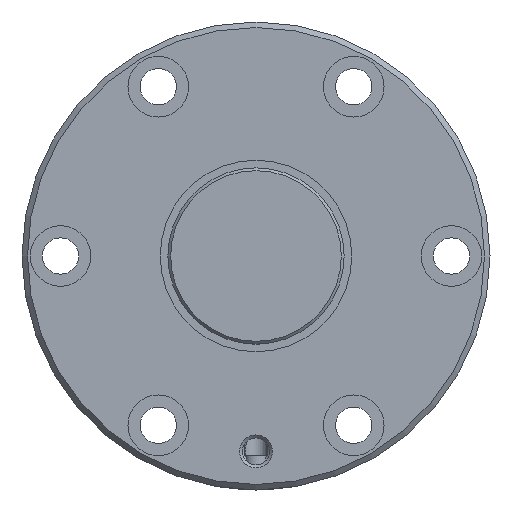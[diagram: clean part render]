
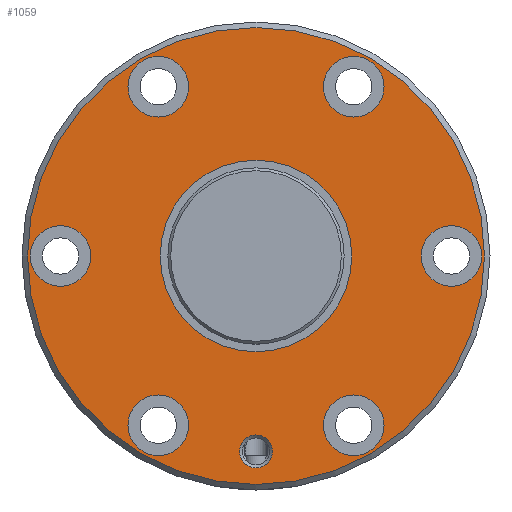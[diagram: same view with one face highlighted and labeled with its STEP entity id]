
A CAD part, left-side view. The second image highlights one B-rep face of the part: STEP entity #1059.
In plain terms, the highlighted planar face has unit normal (-1, 0, 0).
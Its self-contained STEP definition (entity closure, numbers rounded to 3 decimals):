
#121=PLANE('',#1177);
#184=ORIENTED_EDGE('',*,*,#432,.T.);
#185=ORIENTED_EDGE('',*,*,#433,.T.);
#186=ORIENTED_EDGE('',*,*,#434,.T.);
#187=ORIENTED_EDGE('',*,*,#435,.T.);
#188=ORIENTED_EDGE('',*,*,#436,.T.);
#189=ORIENTED_EDGE('',*,*,#437,.T.);
#190=ORIENTED_EDGE('',*,*,#438,.T.);
#191=ORIENTED_EDGE('',*,*,#439,.T.);
#192=ORIENTED_EDGE('',*,*,#431,.F.);
#431=EDGE_CURVE('',#560,#560,#655,.T.);
#432=EDGE_CURVE('',#561,#561,#656,.T.);
#433=EDGE_CURVE('',#562,#562,#657,.F.);
#434=EDGE_CURVE('',#563,#563,#658,.T.);
#435=EDGE_CURVE('',#564,#564,#659,.T.);
#436=EDGE_CURVE('',#565,#565,#660,.T.);
#437=EDGE_CURVE('',#566,#566,#661,.T.);
#438=EDGE_CURVE('',#567,#567,#662,.T.);
#439=EDGE_CURVE('',#568,#568,#663,.T.);
#560=VERTEX_POINT('',#1753);
#561=VERTEX_POINT('',#1756);
#562=VERTEX_POINT('',#1758);
#563=VERTEX_POINT('',#1760);
#564=VERTEX_POINT('',#1762);
#565=VERTEX_POINT('',#1764);
#566=VERTEX_POINT('',#1766);
#567=VERTEX_POINT('',#1768);
#568=VERTEX_POINT('',#1770);
#655=CIRCLE('',#1176,41.5);
#656=CIRCLE('',#1178,17.4);
#657=CIRCLE('',#1179,5.5);
#658=CIRCLE('',#1180,3.);
#659=CIRCLE('',#1181,5.5);
#660=CIRCLE('',#1182,5.5);
#661=CIRCLE('',#1183,5.5);
#662=CIRCLE('',#1184,5.5);
#663=CIRCLE('',#1185,5.5);
#746=EDGE_LOOP('',(#184));
#747=EDGE_LOOP('',(#185));
#748=EDGE_LOOP('',(#186));
#749=EDGE_LOOP('',(#187));
#750=EDGE_LOOP('',(#188));
#751=EDGE_LOOP('',(#189));
#752=EDGE_LOOP('',(#190));
#753=EDGE_LOOP('',(#191));
#754=EDGE_LOOP('',(#192));
#891=FACE_BOUND('',#746,.T.);
#892=FACE_BOUND('',#747,.T.);
#893=FACE_BOUND('',#748,.T.);
#894=FACE_BOUND('',#749,.T.);
#895=FACE_BOUND('',#750,.T.);
#896=FACE_BOUND('',#751,.T.);
#897=FACE_BOUND('',#752,.T.);
#898=FACE_BOUND('',#753,.T.);
#899=FACE_BOUND('',#754,.T.);
#1059=ADVANCED_FACE('',(#891,#892,#893,#894,#895,#896,#897,#898,#899),#121,
 .T.);
#1176=AXIS2_PLACEMENT_3D('',#1752,#1366,#1367);
#1177=AXIS2_PLACEMENT_3D('',#1754,#1368,#1369);
#1178=AXIS2_PLACEMENT_3D('',#1755,#1370,#1371);
#1179=AXIS2_PLACEMENT_3D('',#1757,#1372,#1373);
#1180=AXIS2_PLACEMENT_3D('',#1759,#1374,#1375);
#1181=AXIS2_PLACEMENT_3D('',#1761,#1376,#1377);
#1182=AXIS2_PLACEMENT_3D('',#1763,#1378,#1379);
#1183=AXIS2_PLACEMENT_3D('',#1765,#1380,#1381);
#1184=AXIS2_PLACEMENT_3D('',#1767,#1382,#1383);
#1185=AXIS2_PLACEMENT_3D('',#1769,#1384,#1385);
#1366=DIRECTION('',(1.,0.,0.));
#1367=DIRECTION('',(0.,0.,-1.));
#1368=DIRECTION('',(-1.,0.,0.));
#1369=DIRECTION('',(0.,0.,1.));
#1370=DIRECTION('',(1.,0.,0.));
#1371=DIRECTION('',(0.,0.,-1.));
#1372=DIRECTION('',(-1.,0.,0.));
#1373=DIRECTION('',(0.,0.,1.));
#1374=DIRECTION('',(1.,0.,0.));
#1375=DIRECTION('',(0.,0.,-1.));
#1376=DIRECTION('',(1.,0.,0.));
#1377=DIRECTION('',(0.,0.,-1.));
#1378=DIRECTION('',(1.,0.,0.));
#1379=DIRECTION('',(0.,0.,-1.));
#1380=DIRECTION('',(1.,0.,0.));
#1381=DIRECTION('',(0.,0.,-1.));
#1382=DIRECTION('',(1.,0.,0.));
#1383=DIRECTION('',(0.,0.,-1.));
#1384=DIRECTION('',(1.,0.,0.));
#1385=DIRECTION('',(0.,0.,-1.));
#1752=CARTESIAN_POINT('',(0.,0.,0.));
#1753=CARTESIAN_POINT('',(0.,0.,-41.5));
#1754=CARTESIAN_POINT('',(0.,41.5,0.));
#1755=CARTESIAN_POINT('',(0.,0.,0.));
#1756=CARTESIAN_POINT('',(0.,0.,-17.4));
#1757=CARTESIAN_POINT('',(0.,35.5,0.));
#1758=CARTESIAN_POINT('',(0.,35.5,5.5));
#1759=CARTESIAN_POINT('',(0.,0.,-35.5));
#1760=CARTESIAN_POINT('',(0.,0.,-38.5));
#1761=CARTESIAN_POINT('',(0.,17.75,30.744));
#1762=CARTESIAN_POINT('',(0.,17.75,25.244));
#1763=CARTESIAN_POINT('',(0.,-17.75,-30.744));
#1764=CARTESIAN_POINT('',(0.,-17.75,-36.244));
#1765=CARTESIAN_POINT('',(0.,-17.75,30.744));
#1766=CARTESIAN_POINT('',(0.,-17.75,25.244));
#1767=CARTESIAN_POINT('',(0.,17.75,-30.744));
#1768=CARTESIAN_POINT('',(0.,17.75,-36.244));
#1769=CARTESIAN_POINT('',(0.,-35.5,0.));
#1770=CARTESIAN_POINT('',(0.,-35.5,-5.5));
